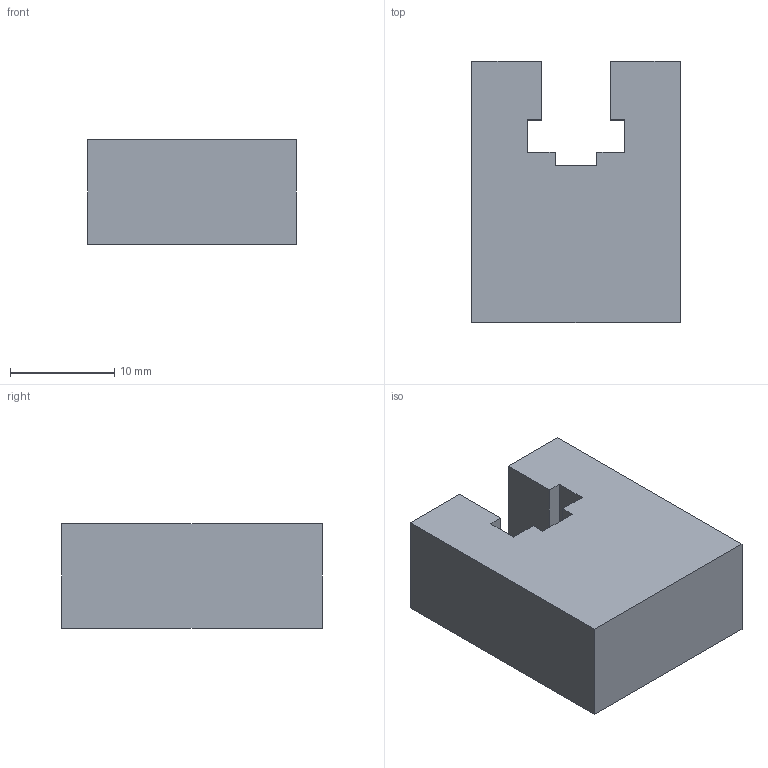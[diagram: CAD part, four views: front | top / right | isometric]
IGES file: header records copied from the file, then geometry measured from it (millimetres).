
Start section: SolidWorks IGES file using analytic representation for surfaces
Global section: file name: C:\Documents and Settings\ARGE\Desktop\yeni katalog tolgay düzenli\E kataloðu\ALPOLEN 1000 MODEL BL TÝPÝ ZÝNCÝR KIZAKLARI\207 BL0 038.IGS; native system: SolidWorks 2006 by SolidWorks Corporation; preprocessor: SolidWorks 2006 by SolidWorks Corporation; author: ARGE2; date: 060912.184042; units: millimetre
Bounding box: 20 x 25 x 10 mm (x, y, z)
Surface area: 2012 mm2 (no closed solid volume)
Topology: 0 solids, 0 shells, 18 faces, 96 edges, 96 vertices
Faces by surface type: bspline 18
